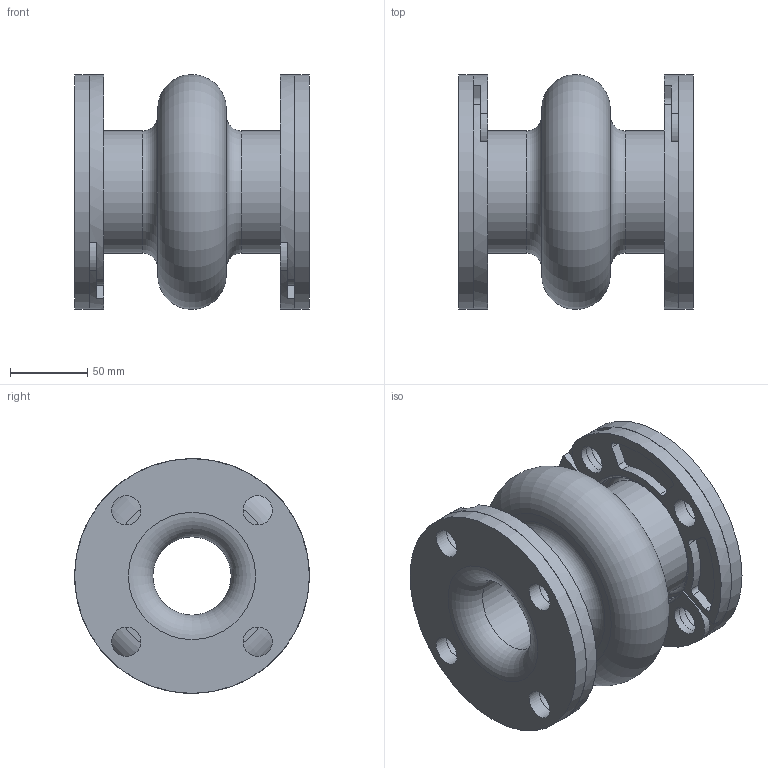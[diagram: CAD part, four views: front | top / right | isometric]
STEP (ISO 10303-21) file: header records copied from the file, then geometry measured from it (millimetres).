
FILE_DESCRIPTION(/* description */ (''),/* implementation_level */ '2;1');
FILE_NAME(/* name */ 'C:\001_Work\Designs\Mercer2014\MQInventor2014\RajR\500 Style\501\New folder\501 2IDx6FF.stp',/* time_stamp */ '2016-03-26T14:39:27-04:00',/* author */ ('rramoutar'),/* organization */ ('Mason Industries Inc.'),/* preprocessor_version */ 'ST-DEVELOPER v15.6',/* originating_system */ 'Autodesk Inventor 2015',/* authorisation */ '');
FILE_SCHEMA (('CONFIG_CONTROL_DESIGN'));
Length unit declared in the file: inch
Products named in the file (1): 501 2IDx6FF
Bounding box: 152.4 x 152.4 x 152.4 mm (x, y, z)
Volume: 1125731.6 mm3; surface area: 247302 mm2
Topology: 5 solids, 5 shells, 178 faces, 464 edges, 306 vertices
Faces by surface type: cylinder 106, plane 52, torus 16, cone 4
Full cylindrical faces by diameter (mm): 19.05 x20, 50.8 x2, 79.375 x2, 152.4 x2
Entity records: 5811 total; most frequent: CARTESIAN_POINT 1079, DIRECTION 1010, ORIENTED_EDGE 844, AXIS2_PLACEMENT_3D 425, EDGE_CURVE 422, VERTEX_POINT 302, EDGE_LOOP 268, CIRCLE 246
